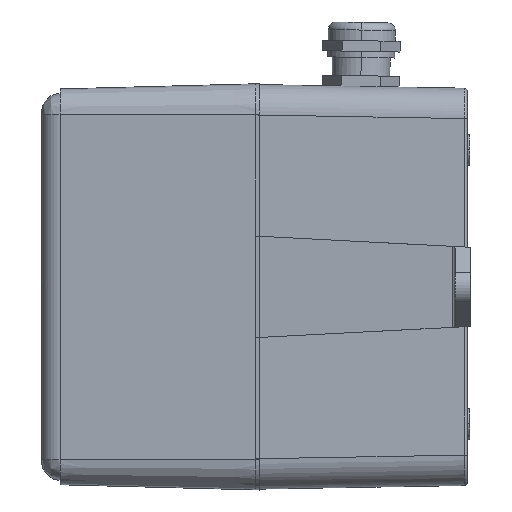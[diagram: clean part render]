
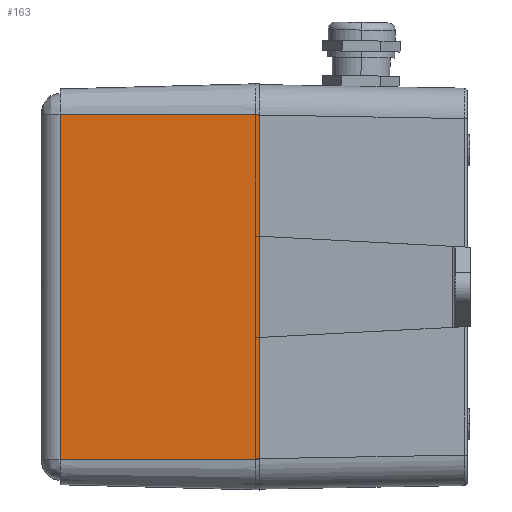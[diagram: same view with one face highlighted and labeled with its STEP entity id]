
A CAD part, left-side view. The second image highlights one B-rep face of the part: STEP entity #163.
In plain terms, the highlighted planar face has unit normal (-1, 0.026, 0).
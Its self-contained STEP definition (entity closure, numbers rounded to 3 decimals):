
#158 = VERTEX_POINT ( 'NONE', #3142 ) ;
#163 = ADVANCED_FACE ( 'NONE', ( #3104 ), #3089, .T. ) ;
#164 = EDGE_LOOP ( 'NONE', ( #165, #168, #169, #225 ) ) ;
#165 = ORIENTED_EDGE ( 'NONE', *, *, #166, .F. ) ;
#166 = EDGE_CURVE ( 'NONE', #158, #167, #3081, .T. ) ;
#167 = VERTEX_POINT ( 'NONE', #3077 ) ;
#168 = ORIENTED_EDGE ( 'NONE', *, *, #180, .T. ) ;
#169 = ORIENTED_EDGE ( 'NONE', *, *, #195, .F. ) ;
#180 = EDGE_CURVE ( 'NONE', #158, #196, #3324, .T. ) ;
#195 = EDGE_CURVE ( 'NONE', #401, #196, #3410, .T. ) ;
#196 = VERTEX_POINT ( 'NONE', #3406 ) ;
#225 = ORIENTED_EDGE ( 'NONE', *, *, #226, .F. ) ;
#226 = EDGE_CURVE ( 'NONE', #167, #401, #3307, .T. ) ;
#401 = VERTEX_POINT ( 'NONE', #4104 ) ;
#3077 = CARTESIAN_POINT ( 'NONE',  ( -167.661, 354.838, 118.376 ) ) ;
#3078 = DIRECTION ( 'NONE',  ( 0., 0., 1. ) ) ;
#3079 = VECTOR ( 'NONE', #3078, 1000. ) ;
#3080 = CARTESIAN_POINT ( 'NONE',  ( -167.661, 354.838, 13.376 ) ) ;
#3081 = LINE ( 'NONE', #3080, #3079 ) ;
#3085 = DIRECTION ( 'NONE',  ( 0.026, 1., 0. ) ) ;
#3086 = DIRECTION ( 'NONE',  ( -1., 0.026, 0. ) ) ;
#3087 = CARTESIAN_POINT ( 'NONE',  ( -169.376, 289.338, 13.376 ) ) ;
#3088 = AXIS2_PLACEMENT_3D ( 'NONE', #3087, #3086, #3085 ) ;
#3089 = PLANE ( 'NONE',  #3088 ) ;
#3104 = FACE_OUTER_BOUND ( 'NONE', #164, .T. ) ;
#3142 = CARTESIAN_POINT ( 'NONE',  ( -167.661, 354.838, 4.876 ) ) ;
#3304 = DIRECTION ( 'NONE',  ( -0.026, -1., 0. ) ) ;
#3305 = VECTOR ( 'NONE', #3304, 1000. ) ;
#3306 = CARTESIAN_POINT ( 'NONE',  ( -168.519, 322.088, 118.376 ) ) ;
#3307 = LINE ( 'NONE', #3306, #3305 ) ;
#3321 = DIRECTION ( 'NONE',  ( -0.026, -1., 0. ) ) ;
#3322 = VECTOR ( 'NONE', #3321, 1000. ) ;
#3323 = CARTESIAN_POINT ( 'NONE',  ( -169.376, 289.338, 4.876 ) ) ;
#3324 = LINE ( 'NONE', #3323, #3322 ) ;
#3406 = CARTESIAN_POINT ( 'NONE',  ( -169.376, 289.338, 4.876 ) ) ;
#3407 = DIRECTION ( 'NONE',  ( 0., 0., -1. ) ) ;
#3408 = VECTOR ( 'NONE', #3407, 1000. ) ;
#3409 = CARTESIAN_POINT ( 'NONE',  ( -169.376, 289.338, 13.376 ) ) ;
#3410 = LINE ( 'NONE', #3409, #3408 ) ;
#4104 = CARTESIAN_POINT ( 'NONE',  ( -169.376, 289.338, 118.376 ) ) ;
